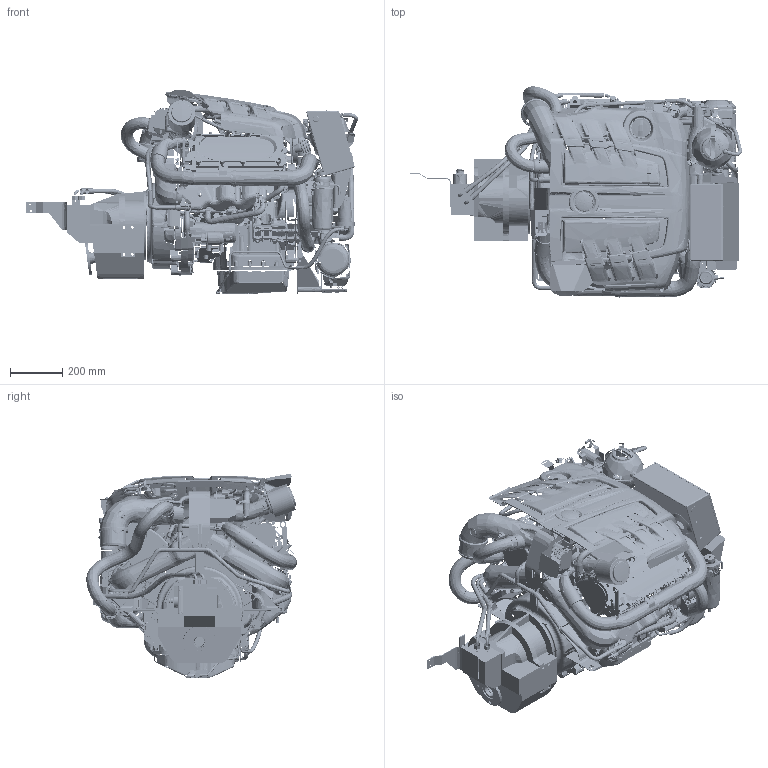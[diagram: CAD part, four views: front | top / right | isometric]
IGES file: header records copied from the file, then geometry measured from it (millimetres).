
Start section:  PTC IGES file: tdi_225-6_zf45a.igs
Global section: file name: tdi_225-6_zf45a.igs; native system: Pro/ENGINEER by Parametric Technology Corporation; preprocessor: 2006511; author: EKNOTHE; organization: Unknown; date: 20071002.150930; units: millimetre
Bounding box: 1273.49 x 810.73 x 786.04 mm (x, y, z)
Surface area: 7061818.4 mm2 (no closed solid volume)
Topology: 0 solids, 0 shells, 5267 faces, 42738 edges, 42709 vertices
Faces by surface type: bspline 5267
